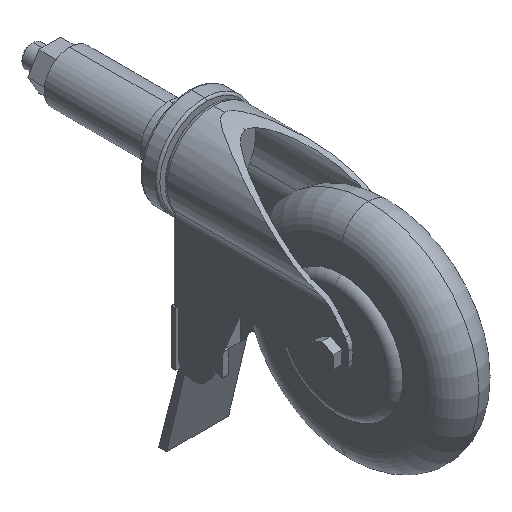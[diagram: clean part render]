
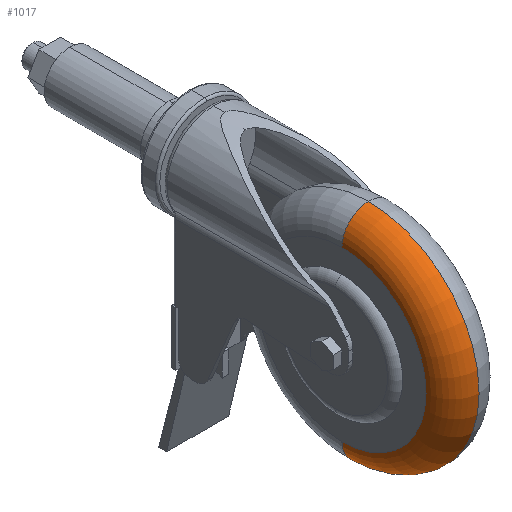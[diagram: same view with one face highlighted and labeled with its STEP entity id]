
A CAD part, isometric view. The second image highlights one B-rep face of the part: STEP entity #1017.
In plain terms, the highlighted toroidal (fillet/blend) face has major radius 38 mm and minor radius 12 mm.
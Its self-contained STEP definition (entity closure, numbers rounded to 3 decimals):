
#590 = CARTESIAN_POINT ( 'NONE',  ( 0., -83., 6.667 ) ) ;
#938 = TOROIDAL_SURFACE ( 'NONE', #2652, 38., 12. ) ;
#1008 = CARTESIAN_POINT ( 'NONE',  ( -12., -83., -69.333 ) ) ;
#1017 = ADVANCED_FACE ( 'NONE', ( #1754 ), #938, .T. ) ;
#1027 = DIRECTION ( 'NONE',  ( 0., 0., -1. ) ) ;
#1121 = ORIENTED_EDGE ( 'NONE', *, *, #2461, .T. ) ;
#1171 = EDGE_CURVE ( 'NONE', #4448, #2952, #4532, .T. ) ;
#1198 = CARTESIAN_POINT ( 'NONE',  ( 0., -83., -69.333 ) ) ;
#1329 = EDGE_LOOP ( 'NONE', ( #2303, #2291, #1121, #1359 ) ) ;
#1359 = ORIENTED_EDGE ( 'NONE', *, *, #3277, .T. ) ;
#1412 = CARTESIAN_POINT ( 'NONE',  ( 0., -83., 18.667 ) ) ;
#1448 = AXIS2_PLACEMENT_3D ( 'NONE', #1198, #4487, #4519 ) ;
#1529 = AXIS2_PLACEMENT_3D ( 'NONE', #4475, #1600, #4151 ) ;
#1600 = DIRECTION ( 'NONE',  ( -1., 0., 0. ) ) ;
#1754 = FACE_OUTER_BOUND ( 'NONE', #1329, .T. ) ;
#1757 = CARTESIAN_POINT ( 'NONE',  ( -12., -83., -31.333 ) ) ;
#1763 = CARTESIAN_POINT ( 'NONE',  ( -12., -83., 6.667 ) ) ;
#2119 = EDGE_CURVE ( 'NONE', #2952, #3497, #4695, .T. ) ;
#2291 = ORIENTED_EDGE ( 'NONE', *, *, #1171, .F. ) ;
#2303 = ORIENTED_EDGE ( 'NONE', *, *, #2119, .F. ) ;
#2421 = DIRECTION ( 'NONE',  ( 0., 1., 0. ) ) ;
#2461 = EDGE_CURVE ( 'NONE', #4448, #3406, #2785, .T. ) ;
#2652 = AXIS2_PLACEMENT_3D ( 'NONE', #4484, #3018, #4144 ) ;
#2747 = CARTESIAN_POINT ( 'NONE',  ( 0., -83., -81.333 ) ) ;
#2785 = CIRCLE ( 'NONE', #1448, 12. ) ;
#2857 = AXIS2_PLACEMENT_3D ( 'NONE', #590, #2421, #3133 ) ;
#2952 = VERTEX_POINT ( 'NONE', #1763 ) ;
#3018 = DIRECTION ( 'NONE',  ( 1., 0., 0. ) ) ;
#3133 = DIRECTION ( 'NONE',  ( 0., 0., 1. ) ) ;
#3277 = EDGE_CURVE ( 'NONE', #3406, #3497, #3568, .T. ) ;
#3406 = VERTEX_POINT ( 'NONE', #2747 ) ;
#3497 = VERTEX_POINT ( 'NONE', #1412 ) ;
#3568 = CIRCLE ( 'NONE', #1529, 50. ) ;
#4144 = DIRECTION ( 'NONE',  ( 0., 0., -1. ) ) ;
#4151 = DIRECTION ( 'NONE',  ( 0., 0., -1. ) ) ;
#4313 = DIRECTION ( 'NONE',  ( -1., 0., 0. ) ) ;
#4448 = VERTEX_POINT ( 'NONE', #1008 ) ;
#4475 = CARTESIAN_POINT ( 'NONE',  ( 0., -83., -31.333 ) ) ;
#4484 = CARTESIAN_POINT ( 'NONE',  ( 0., -83., -31.333 ) ) ;
#4487 = DIRECTION ( 'NONE',  ( 0., -1., 0. ) ) ;
#4519 = DIRECTION ( 'NONE',  ( 0., 0., -1. ) ) ;
#4532 = CIRCLE ( 'NONE', #4538, 38. ) ;
#4538 = AXIS2_PLACEMENT_3D ( 'NONE', #1757, #4313, #1027 ) ;
#4695 = CIRCLE ( 'NONE', #2857, 12. ) ;
